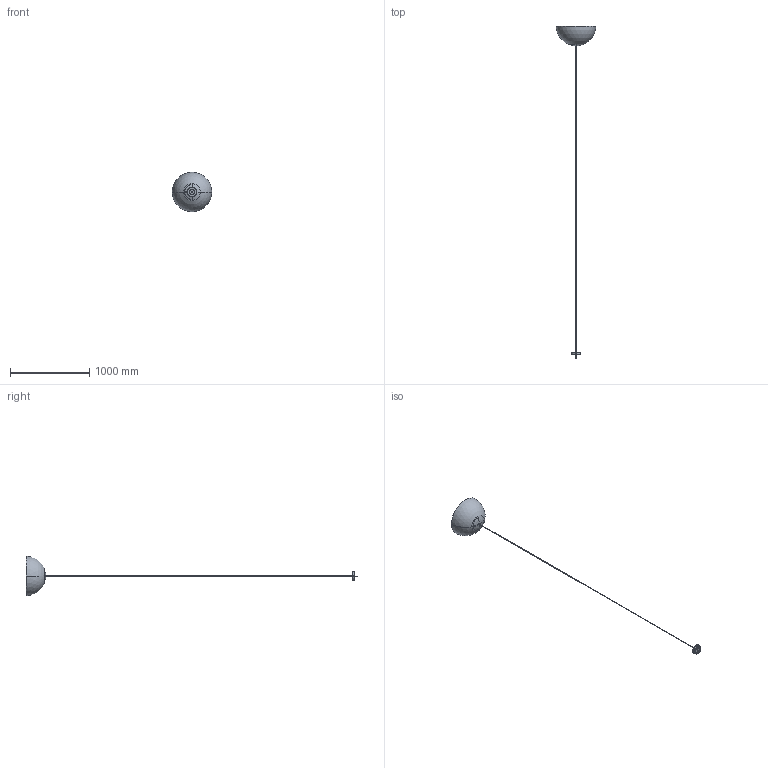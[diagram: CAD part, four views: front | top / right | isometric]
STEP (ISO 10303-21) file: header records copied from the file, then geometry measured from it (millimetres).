
FILE_DESCRIPTION((''),'2;1');
FILE_NAME('SOSPESA_500_SW0001','2025-05-14T14:09:15',('elena.baldelli'),(''),'CREO PARAMETRIC BY PTC INC, 2020354','CREO PARAMETRIC BY PTC INC, 2020354','');
FILE_SCHEMA(('CONFIG_CONTROL_DESIGN'));
Length unit declared in the file: millimetre
Products named in the file (1): SOSPESA_500_SW0001
Bounding box: 500 x 4195 x 500 mm (x, y, z)
Surface area: 971695.1 mm2 (no closed solid volume)
Topology: 0 solids, 10 shells, 27 faces, 102 edges, 81 vertices
Faces by surface type: sphere 9, cylinder 5, plane 5, torus 4, cone 4
Entity records: 1154 total; most frequent: DIRECTION 228, CARTESIAN_POINT 224, ORIENTED_EDGE 134, AXIS2_PLACEMENT_3D 109, EDGE_CURVE 100, CIRCLE 82, VERTEX_POINT 81, EDGE_LOOP 31
